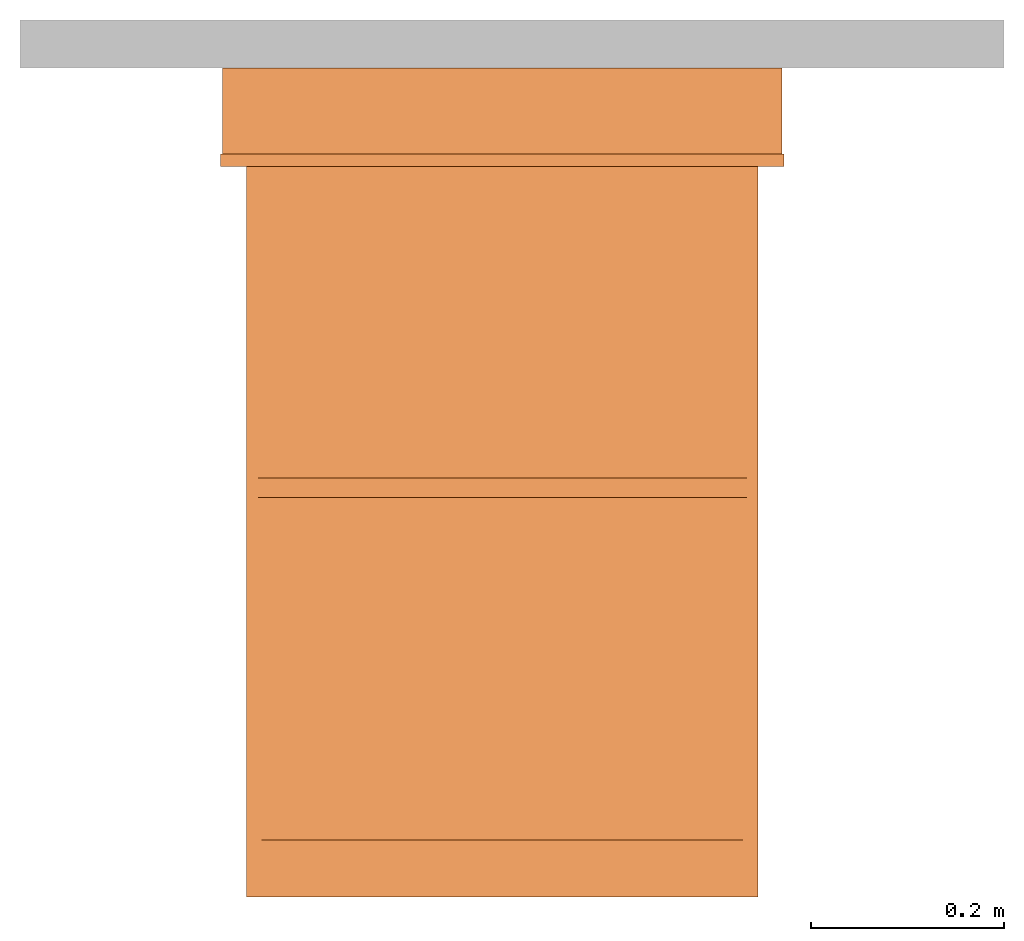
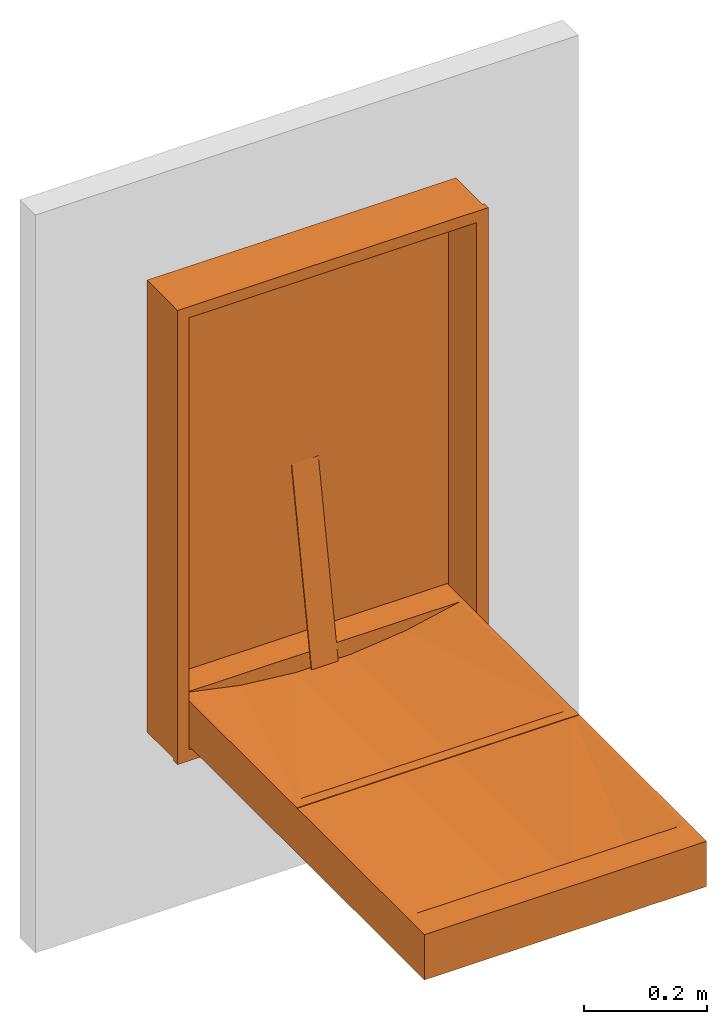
# One storey, part 2 of 2: 1 proxy.
"""IFC2X3 building model written with IfcOpenShell, lengths in millimetres."""

from ifc_helpers import new_model, entity, si_unit, converted_unit, derived_unit, direction, frame, origin, place, context, subcontext, project, spatial, faceted_brep, source, transform, mapped, material, material_list, element, save


model = new_model("IFC2X3")

# Units and contexts
model_context = context("Model", 3, precision=1e-05, world=origin(), true_north=direction((2.0, 6.12303176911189e-17, 1.0)))
context_of_model = context(None, 3, precision=1e-05, world=origin(), true_north=direction((2.0, 6.12303176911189e-17, 1.0)))
body_context = subcontext(model_context, "Body", "Model", "MODEL_VIEW")
ifc_project = project(units=[si_unit("LENGTHUNIT", "METRE", prefix="MILLI"), si_unit("AREAUNIT", "SQUARE_METRE"), si_unit("VOLUMEUNIT", "CUBIC_METRE"), converted_unit("PLANEANGLEUNIT", "DEGREE", entity("IfcRatioMeasure", 0.0174532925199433), si_unit("PLANEANGLEUNIT", "RADIAN"), dimensions=[0, 0, 0, 0, 0, 0, 0]), si_unit("MASSUNIT", "GRAM", prefix="KILO"), si_unit("TIMEUNIT", "SECOND"), si_unit("THERMODYNAMICTEMPERATUREUNIT", "KELVIN"), derived_unit("THERMALTRANSMITTANCEUNIT", [(si_unit("MASSUNIT", "GRAM", prefix="KILO"), 1), (si_unit("THERMODYNAMICTEMPERATUREUNIT", "KELVIN"), -1), (si_unit("TIMEUNIT", "SECOND"), -3)]), derived_unit("VOLUMETRICFLOWRATEUNIT", [(si_unit("LENGTHUNIT", "METRE"), 3), (si_unit("TIMEUNIT", "SECOND"), -1)]), si_unit("POWERUNIT", "WATT")], contexts=[model_context, context_of_model])

# Site, building, storey
site_placement = place(None, origin())
site = spatial("IfcSite", under=ifc_project, at=site_placement, Name="Default", CompositionType="ELEMENT")
building_placement = place(site_placement, origin())
building = spatial("IfcBuilding", under=site, at=building_placement, CompositionType="ELEMENT")
storey_placement = place(building_placement, origin())
storey = spatial("IfcBuildingStorey", under=building, at=storey_placement, Name="Level 1", CompositionType="ELEMENT", Elevation=0.0)

# Proxy
ifc_material_1 = material(Name="Black Rubber Stop")
ifc_material_2 = material(Name="Plastic Insert")
ifc_material_3 = material(Name="Stainless Steel")
ifc_material_list = material_list([ifc_material_1, ifc_material_2, ifc_material_3])
shared_shape = source(origin(), body_context, "Body", "Brep", [
    faceted_brep([(265.0, -445.0, 90.0), (265.0, -435.0, 90.0), (265.0, -425.0, 90.0), (265.0, -425.0, 90.8858578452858), (265.0, -445.0, 90.8858578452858), (-265.0, -445.0, 90.0), (-265.0, -445.0, 90.8858578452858), (-265.0, -425.0, 90.8858578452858), (-265.0, -425.0, 90.0), (-265.0, -435.0, 90.0), (265.0, -435.0, 90.0), (265.0, -445.0, 90.0), (-265.0, -445.0, 90.0), (-265.0, -435.0, 90.0), (265.0, -425.0, 90.0), (265.0, -435.0, 90.0), (-265.0, -435.0, 90.0), (-265.0, -425.0, 90.0), (265.0, -425.0, 90.8858578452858), (265.0, -425.0, 90.0), (-265.0, -425.0, 90.0), (-265.0, -425.0, 90.8858578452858), (265.0, -445.0, 90.8858578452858), (265.0, -425.0, 90.8858578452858), (-265.0, -425.0, 90.8858578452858), (-265.0, -445.0, 90.8858578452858), (265.0, -445.0, 90.0), (265.0, -445.0, 90.8858578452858), (-265.0, -445.0, 90.8858578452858), (-265.0, -445.0, 90.0)], [[[0, 1, 2, 3, 4]], [[5, 6, 7, 8, 9]], [[10, 11, 12, 13]], [[14, 15, 16, 17]], [[18, 19, 20, 21]], [[22, 23, 24, 25]], [[26, 27, 28, 29]]]),
    faceted_brep([(25.0, -10.0, 424.74669623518), (25.0, -11.3695436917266, 425.705661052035), (25.0, -76.4922395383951, 56.3765000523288), (25.0, -75.0, 56.1133779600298), (-25.0, -10.0, 424.74669623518), (-25.0, -75.0, 56.1133779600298), (-25.0, -76.4922395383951, 56.3765000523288), (-25.0, -11.3695436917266, 425.705661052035), (25.0, -11.3695436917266, 425.705661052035), (25.0, -10.0, 424.74669623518), (-25.0, -10.0, 424.74669623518), (-25.0, -11.3695436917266, 425.705661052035), (25.0, -76.4922395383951, 56.3765000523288), (25.0, -11.3695436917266, 425.705661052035), (-25.0, -11.3695436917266, 425.705661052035), (-25.0, -76.4922395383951, 56.3765000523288), (25.0, -75.0, 56.1133779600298), (25.0, -76.4922395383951, 56.3765000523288), (-25.0, -76.4922395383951, 56.3765000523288), (-25.0, -75.0, 56.1133779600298), (25.0, -10.0, 424.74669623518), (25.0, -75.0, 56.1133779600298), (-25.0, -75.0, 56.1133779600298), (-25.0, -10.0, 424.74669623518)], [[[0, 1, 2, 3]], [[4, 5, 6, 7]], [[8, 9, 10, 11]], [[12, 13, 14, 15]], [[16, 17, 18, 19]], [[20, 21, 22, 23]]]),
    faceted_brep([(257.013038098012, -850.99601560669, 90.0), (257.012247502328, -800.0, 90.0), (-256.987752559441, -800.0, 90.0), (-256.986961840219, -851.003984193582, 90.0), (257.000930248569, -70.0, 90.0), (257.000201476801, -22.99182987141, 90.0), (-256.99979846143, -22.9997984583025, 90.0), (-256.9990698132, -70.0, 90.0), (-256.986961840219, -851.003984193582, 10.0), (-256.99979846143, -22.9997984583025, 10.0), (257.000201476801, -22.9918298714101, 10.0), (257.013038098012, -850.99601560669, 10.0), (-256.988884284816, -727.0, 89.9970710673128), (-256.990016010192, -654.0, 89.9973747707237), (-256.991147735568, -581.0, 89.9976784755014), (-256.992279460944, -508.0, 89.99798218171), (-256.99341118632, -435.0, 89.9982858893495), (-256.994542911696, -362.0, 89.9985895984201), (-256.995674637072, -289.0, 89.9988933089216), (-256.996806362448, -216.0, 89.999197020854), (-256.997938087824, -143.0, 89.9995007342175), (257.002061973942, -143.0, 89.9962848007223), (257.003193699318, -216.0, 89.9965885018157), (257.004325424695, -289.0, 89.9968922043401), (257.005457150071, -362.0, 89.9971959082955), (257.006588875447, -435.0, 89.9974996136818), (257.007720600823, -508.0, 89.9978033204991), (257.008852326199, -581.0, 89.9981070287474), (257.009984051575, -654.0, 89.9984107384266), (257.011115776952, -727.0, 89.9987144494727), (155.35120561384, -800.0, 68.3574047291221), (51.9794720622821, -800.0, 57.4763221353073), (-51.9633644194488, -800.0, 57.4763221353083), (-155.335097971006, -800.0, 68.3574047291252), (-155.335097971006, -70.0, 68.3574047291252), (-51.9633644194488, -70.0, 57.4763221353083), (51.9794720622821, -70.0, 57.4763221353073), (155.35120561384, -70.0, 68.3574047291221)], [[[0, 1, 2, 3]], [[4, 5, 6, 7]], [[8, 9, 10, 11]], [[6, 5, 10, 9]], [[7, 6, 9, 8, 3, 2, 12, 13, 14, 15, 16, 17, 18, 19, 20]], [[0, 3, 8, 11]], [[1, 0, 11, 10, 5, 4, 21, 22, 23, 24, 25, 26, 27, 28, 29]], [[30, 31, 32, 33, 2, 1]], [[4, 7, 34, 35, 36, 37]], [[34, 7, 20]], [[34, 20, 19, 18, 17, 16]], [[16, 35, 34]], [[33, 16, 15, 14, 13, 12]], [[33, 32, 16]], [[2, 33, 12]], [[32, 35, 16]], [[32, 31, 36, 35]], [[36, 25, 37]], [[4, 37, 21]], [[21, 37, 25, 24, 23, 22]], [[30, 28, 27, 26, 25]], [[25, 31, 30]], [[36, 31, 25]], [[30, 1, 29]], [[30, 29, 28]]]),
    faceted_brep([(257.000201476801, -22.99182987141, 10.0), (-256.99979846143, -22.9997984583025, 10.0), (-256.986961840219, -851.003984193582, 10.0), (257.013038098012, -850.99601560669, 10.0), (257.000201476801, -22.9918298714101, 0.0), (257.013038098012, -850.99601560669, 0.0), (-256.986961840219, -851.003984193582, 0.0), (-256.99979846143, -22.9997984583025, 0.0), (-256.99979846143, -22.9997984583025, 10.0), (257.000201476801, -22.99182987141, 10.0), (257.000201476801, -22.99182987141, 0.0), (-256.99979846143, -22.9997984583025, 0.0), (-256.986961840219, -851.003984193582, 10.0), (-256.99979846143, -22.9997984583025, 10.0), (-256.99979846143, -22.9997984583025, 0.0), (-256.986961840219, -851.003984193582, 0.0), (257.013038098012, -850.99601560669, 10.0), (-256.986961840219, -851.003984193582, 10.0), (-256.986961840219, -851.003984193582, 0.0), (257.013038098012, -850.99601560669, 0.0), (257.000201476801, -22.9918298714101, 10.0), (257.013038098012, -850.99601560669, 10.0), (257.013038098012, -850.99601560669, 0.0), (257.000201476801, -22.99182987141, 0.0)], [[[0, 1, 2, 3]], [[4, 5, 6, 7]], [[8, 9, 10, 11]], [[12, 13, 14, 15]], [[16, 17, 18, 19]], [[20, 21, 22, 23]]]),
    faceted_brep([(-264.986837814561, -859.004108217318, 90.0), (265.013162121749, -858.99589158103, 90.0), (265.000077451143, -14.9917058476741, 90.0), (-264.999922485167, -14.9999224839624, 90.0), (-256.99979846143, -22.9997984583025, 90.0), (257.000201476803, -22.9918298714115, 90.0), (257.013038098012, -850.99601560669, 90.0), (-256.986961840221, -851.003984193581, 90.0), (-264.986837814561, -859.004108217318, 0.0), (-264.999922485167, -14.9999224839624, 0.0), (265.000077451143, -14.9917058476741, 0.0), (265.013162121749, -858.99589158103, 0.0), (-256.99979846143, -22.9997984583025, 0.0), (-256.986961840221, -851.003984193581, 0.0), (257.013038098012, -850.99601560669, 0.0), (257.000201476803, -22.9918298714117, 0.0), (265.013162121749, -858.99589158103, 90.0), (-264.986837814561, -859.004108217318, 90.0), (-264.986837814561, -859.004108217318, 0.0), (265.013162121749, -858.99589158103, 0.0), (265.000077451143, -14.9917058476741, 90.0), (265.013162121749, -858.99589158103, 90.0), (265.013162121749, -858.99589158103, 0.0), (265.000077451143, -14.9917058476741, 0.0), (-264.999922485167, -14.9999224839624, 90.0), (265.000077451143, -14.9917058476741, 90.0), (265.000077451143, -14.9917058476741, 0.0), (-264.999922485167, -14.9999224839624, 0.0), (-264.986837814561, -859.004108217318, 90.0), (-264.999922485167, -14.9999224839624, 90.0), (-264.999922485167, -14.9999224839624, 0.0), (-264.986837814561, -859.004108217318, 0.0), (257.000201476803, -22.9918298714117, 90.0), (-256.99979846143, -22.9997984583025, 90.0), (-256.99979846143, -22.9997984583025, 0.0), (257.000201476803, -22.9918298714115, 0.0), (257.013038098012, -850.99601560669, 90.0), (257.000201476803, -22.9918298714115, 90.0), (257.000201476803, -22.9918298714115, 0.0), (257.013038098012, -850.99601560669, 0.0), (-256.986961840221, -851.003984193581, 90.0), (257.013038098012, -850.99601560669, 90.0), (257.013038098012, -850.99601560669, 0.0), (-256.986961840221, -851.003984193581, 0.0), (-256.99979846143, -22.9997984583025, 90.0), (-256.986961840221, -851.003984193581, 90.0), (-256.986961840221, -851.003984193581, 0.0), (-256.99979846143, -22.9997984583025, 0.0)], [[[0, 1, 2, 3], [4, 5, 6, 7]], [[8, 9, 10, 11], [12, 13, 14, 15]], [[16, 17, 18, 19]], [[20, 21, 22, 23]], [[24, 25, 26, 27]], [[28, 29, 30, 31]], [[32, 33, 34, 35]], [[36, 37, 38, 39]], [[40, 41, 42, 43]], [[44, 45, 46, 47]]]),
    faceted_brep([(275.0, -10.0, 863.0), (-275.0, -10.0, 863.0), (-275.0, -10.0, -5.0), (275.0, -10.0, -5.0), (275.0, 0.0, 863.0), (275.0, 0.0, -5.0), (-275.0, 0.0, -5.0), (-275.0, 0.0, 863.0), (-275.0, -10.0, 863.0), (275.0, -10.0, 863.0), (275.0, 0.0, 863.0), (-275.0, 0.0, 863.0), (-275.0, -10.0, -5.0), (-275.0, -10.0, 863.0), (-275.0, 0.0, 863.0), (-275.0, 0.0, -5.0), (275.0, -10.0, -5.0), (-275.0, -10.0, -5.0), (-275.0, 0.0, -5.0), (275.0, 0.0, -5.0), (275.0, -10.0, 863.0), (275.0, -10.0, -5.0), (275.0, 0.0, -5.0), (275.0, 0.0, 863.0)], [[[0, 1, 2, 3]], [[4, 5, 6, 7]], [[8, 9, 10, 11]], [[12, 13, 14, 15]], [[16, 17, 18, 19]], [[20, 21, 22, 23]]]),
    faceted_brep([(270.0, -102.0, 858.0), (270.0, -102.0, 0.0), (-270.0, -102.0, 0.0), (-270.0, -102.0, 858.0), (292.0, -102.0, 880.0), (-292.0, -102.0, 880.0), (-292.0, -102.0, -22.0), (292.0, -102.0, -22.0), (270.0, -89.0, 858.0), (-270.0, -89.0, 858.0), (-270.0, -89.0, 0.0), (270.0, -89.0, 0.0), (292.0, -89.0, 880.0), (292.0, -89.0, -22.0), (-292.0, -89.0, -22.0), (-292.0, -89.0, 880.0), (270.0, -102.0, 0.0), (270.0, -102.0, 858.0), (270.0, -89.0, 858.0), (270.0, -89.0, 0.0), (-270.0, -102.0, 0.0), (270.0, -102.0, 0.0), (270.0, -89.0, 0.0), (-270.0, -89.0, 0.0), (-270.0, -102.0, 858.0), (-270.0, -102.0, 0.0), (-270.0, -89.0, 0.0), (-270.0, -89.0, 858.0), (270.0, -102.0, 858.0), (-270.0, -102.0, 858.0), (-270.0, -89.0, 858.0), (270.0, -89.0, 858.0), (-292.0, -102.0, 880.0), (292.0, -102.0, 880.0), (292.0, -89.0, 880.0), (-292.0, -89.0, 880.0), (-292.0, -102.0, -22.0), (-292.0, -102.0, 880.0), (-292.0, -89.0, 880.0), (-292.0, -89.0, -22.0), (292.0, -102.0, -22.0), (-292.0, -102.0, -22.0), (-292.0, -89.0, -22.0), (292.0, -89.0, -22.0), (292.0, -102.0, 880.0), (292.0, -102.0, -22.0), (292.0, -89.0, -22.0), (292.0, -89.0, 880.0)], [[[0, 1, 2, 3], [4, 5, 6, 7]], [[8, 9, 10, 11], [12, 13, 14, 15]], [[16, 17, 18, 19]], [[20, 21, 22, 23]], [[24, 25, 26, 27]], [[28, 29, 30, 31]], [[32, 33, 34, 35]], [[36, 37, 38, 39]], [[40, 41, 42, 43]], [[44, 45, 46, 47]]]),
    faceted_brep([(290.0, -89.0, 878.0), (-290.0, -89.0, 878.0), (-290.0, -89.0, -20.0), (290.0, -89.0, -20.0), (270.0, -89.0, 858.0), (270.0, -89.0, 0.0), (-270.0, -89.0, 0.0), (-270.0, -89.0, 858.0), (290.0, 0.0, 878.0), (290.0, 0.0, -20.0), (-290.0, 0.0, -20.0), (-290.0, 0.0, 878.0), (270.0, 0.0, 858.0), (-270.0, 0.0, 858.0), (-270.0, 0.0, 0.0), (270.0, 0.0, 0.0), (-290.0, -89.0, 878.0), (290.0, -89.0, 878.0), (290.0, 0.0, 878.0), (-290.0, 0.0, 878.0), (-290.0, -89.0, -20.0), (-290.0, -89.0, 878.0), (-290.0, 0.0, 878.0), (-290.0, 0.0, -20.0), (290.0, -89.0, -20.0), (-290.0, -89.0, -20.0), (-290.0, 0.0, -20.0), (290.0, 0.0, -20.0), (290.0, -89.0, 878.0), (290.0, -89.0, -20.0), (290.0, 0.0, -20.0), (290.0, 0.0, 878.0), (270.0, -89.0, 0.0), (270.0, -89.0, 858.0), (270.0, 0.0, 858.0), (270.0, 0.0, 0.0), (-270.0, -89.0, 0.0), (270.0, -89.0, 0.0), (270.0, 0.0, 0.0), (-270.0, 0.0, 0.0), (-270.0, -89.0, 858.0), (-270.0, -89.0, 0.0), (-270.0, 0.0, 0.0), (-270.0, 0.0, 858.0), (270.0, -89.0, 858.0), (-270.0, -89.0, 858.0), (-270.0, 0.0, 858.0), (270.0, 0.0, 858.0)], [[[0, 1, 2, 3], [4, 5, 6, 7]], [[8, 9, 10, 11], [12, 13, 14, 15]], [[16, 17, 18, 19]], [[20, 21, 22, 23]], [[24, 25, 26, 27]], [[28, 29, 30, 31]], [[32, 33, 34, 35]], [[36, 37, 38, 39]], [[40, 41, 42, 43]], [[44, 45, 46, 47]]]),
])
proxy_placement = place(storey_placement, frame((976.179875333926, 3952.698533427, -412.085602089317)))
element("IfcBuildingElementProxy", 1, at=proxy_placement, inside=storey, material=ifc_material_list, Name="BC100SV-SM:BC100SV-SM Dolphin Vertical Stainless Steel Nappy Changing Unit", ObjectType="BC100SV-SM Dolphin Vertical Stainless Steel Nappy Changing Unit", CompositionType="ELEMENT", context=body_context, shape_type="MappedRepresentation", body=[
    mapped(shared_shape, transform((0.0, 0.0, 0.0), scale=1.0)),
])

save(model, "model.ifc")
